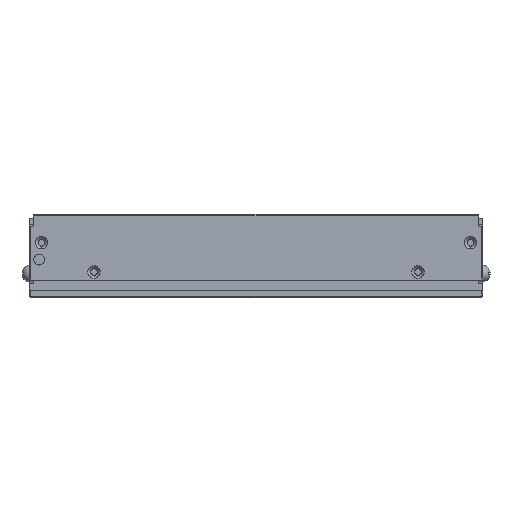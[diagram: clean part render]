
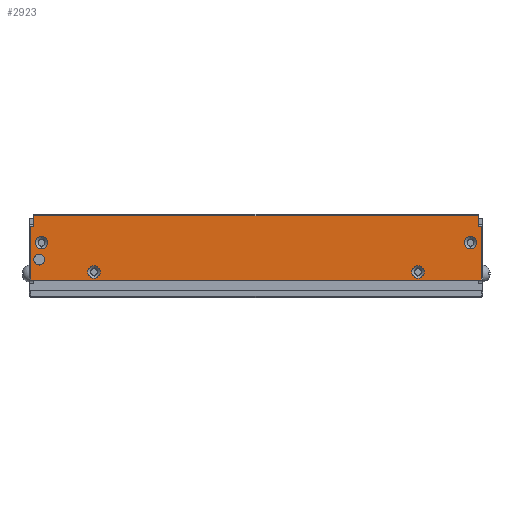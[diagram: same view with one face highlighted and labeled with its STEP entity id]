
A CAD part, top view. The second image highlights one B-rep face of the part: STEP entity #2923.
In plain terms, the highlighted planar face has unit normal (0, 0, 1) as drawn and (1, 0, 0) by its records, which use the part's own axes.
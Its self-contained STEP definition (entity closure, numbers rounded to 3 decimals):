
#320=DIRECTION('',(0.,1.,0.));
#321=VECTOR('',#320,17.499);
#322=CARTESIAN_POINT('',(9.,-4.3,-73.));
#323=LINE('',#322,#321);
#424=CARTESIAN_POINT('',(9.,2.3,70.25));
#425=DIRECTION('',(1.,0.,0.));
#426=DIRECTION('',(0.,0.,-1.));
#427=AXIS2_PLACEMENT_3D('',#424,#425,#426);
#429=CARTESIAN_POINT('',(9.,2.3,70.25));
#430=DIRECTION('',(1.,0.,0.));
#431=DIRECTION('',(0.,0.,1.));
#432=AXIS2_PLACEMENT_3D('',#429,#430,#431);
#434=CARTESIAN_POINT('',(9.,-1.7,52.5));
#435=DIRECTION('',(1.,0.,0.));
#436=DIRECTION('',(0.,1.,0.));
#437=AXIS2_PLACEMENT_3D('',#434,#435,#436);
#439=CARTESIAN_POINT('',(9.,-1.7,52.5));
#440=DIRECTION('',(1.,0.,0.));
#441=DIRECTION('',(0.,-1.,0.));
#442=AXIS2_PLACEMENT_3D('',#439,#440,#441);
#444=CARTESIAN_POINT('',(9.,7.8,69.5));
#445=DIRECTION('',(1.,0.,0.));
#446=DIRECTION('',(0.,1.,0.));
#447=AXIS2_PLACEMENT_3D('',#444,#445,#446);
#449=CARTESIAN_POINT('',(9.,7.8,69.5));
#450=DIRECTION('',(1.,0.,0.));
#451=DIRECTION('',(0.,-1.,0.));
#452=AXIS2_PLACEMENT_3D('',#449,#450,#451);
#454=CARTESIAN_POINT('',(9.,-1.7,-52.5));
#455=DIRECTION('',(1.,0.,0.));
#456=DIRECTION('',(0.,-1.,0.));
#457=AXIS2_PLACEMENT_3D('',#454,#455,#456);
#459=CARTESIAN_POINT('',(9.,-1.7,-52.5));
#460=DIRECTION('',(1.,0.,0.));
#461=DIRECTION('',(0.,1.,0.));
#462=AXIS2_PLACEMENT_3D('',#459,#460,#461);
#464=CARTESIAN_POINT('',(9.,7.8,-69.5));
#465=DIRECTION('',(1.,0.,0.));
#466=DIRECTION('',(0.,-1.,0.));
#467=AXIS2_PLACEMENT_3D('',#464,#465,#466);
#469=CARTESIAN_POINT('',(9.,7.8,-69.5));
#470=DIRECTION('',(1.,0.,0.));
#471=DIRECTION('',(0.,1.,0.));
#472=AXIS2_PLACEMENT_3D('',#469,#470,#471);
#474=DIRECTION('',(0.,-1.,0.));
#475=VECTOR('',#474,3.301);
#476=CARTESIAN_POINT('',(9.,16.5,-72.));
#477=LINE('',#476,#475);
#478=DIRECTION('',(0.,0.,-1.));
#479=VECTOR('',#478,1.);
#480=CARTESIAN_POINT('',(9.,13.199,-72.));
#481=LINE('',#480,#479);
#482=DIRECTION('',(0.,0.,1.));
#483=VECTOR('',#482,146.);
#484=CARTESIAN_POINT('',(9.,-4.3,-73.));
#485=LINE('',#484,#483);
#486=DIRECTION('',(0.,0.,-1.));
#487=VECTOR('',#486,144.);
#488=CARTESIAN_POINT('',(9.,16.5,72.));
#489=LINE('',#488,#487);
#1700=DIRECTION('',(0.,0.,1.));
#1701=VECTOR('',#1700,1.);
#1702=CARTESIAN_POINT('',(9.,13.197,72.));
#1703=LINE('',#1702,#1701);
#1724=DIRECTION('',(0.,-1.,0.));
#1725=VECTOR('',#1724,3.303);
#1726=CARTESIAN_POINT('',(9.,16.5,72.));
#1727=LINE('',#1726,#1725);
#1732=DIRECTION('',(0.,-1.,0.));
#1733=VECTOR('',#1732,17.497);
#1734=CARTESIAN_POINT('',(9.,13.197,73.));
#1735=LINE('',#1734,#1733);
#2020=CARTESIAN_POINT('',(9.,13.197,73.));
#2022=VERTEX_POINT('',#2020);
#2023=CARTESIAN_POINT('',(9.,-4.3,73.));
#2024=VERTEX_POINT('',#2023);
#2183=CARTESIAN_POINT('',(9.,13.199,-73.));
#2185=VERTEX_POINT('',#2183);
#2187=CARTESIAN_POINT('',(9.,-4.3,-73.));
#2188=VERTEX_POINT('',#2187);
#2261=CARTESIAN_POINT('',(9.,16.5,-72.));
#2263=VERTEX_POINT('',#2261);
#2275=CARTESIAN_POINT('',(9.,16.5,72.));
#2276=VERTEX_POINT('',#2275);
#2277=CARTESIAN_POINT('',(9.,5.8,-69.5));
#2278=CARTESIAN_POINT('',(9.,9.8,-69.5));
#2279=VERTEX_POINT('',#2277);
#2280=VERTEX_POINT('',#2278);
#2281=CARTESIAN_POINT('',(9.,-3.7,-52.5));
#2282=CARTESIAN_POINT('',(9.,0.3,-52.5));
#2283=VERTEX_POINT('',#2281);
#2284=VERTEX_POINT('',#2282);
#2285=CARTESIAN_POINT('',(9.,9.8,69.5));
#2286=CARTESIAN_POINT('',(9.,5.8,69.5));
#2287=VERTEX_POINT('',#2285);
#2288=VERTEX_POINT('',#2286);
#2289=CARTESIAN_POINT('',(9.,0.3,52.5));
#2290=CARTESIAN_POINT('',(9.,-3.7,52.5));
#2291=VERTEX_POINT('',#2289);
#2292=VERTEX_POINT('',#2290);
#2293=CARTESIAN_POINT('',(9.,2.3,72.));
#2295=VERTEX_POINT('',#2293);
#2299=CARTESIAN_POINT('',(9.,2.3,68.5));
#2300=VERTEX_POINT('',#2299);
#2349=CARTESIAN_POINT('',(9.,13.197,72.));
#2350=VERTEX_POINT('',#2349);
#2351=CARTESIAN_POINT('',(9.,13.199,-72.));
#2352=VERTEX_POINT('',#2351);
#2874=CARTESIAN_POINT('',(9.,-4.3,72.));
#2875=DIRECTION('',(1.,0.,0.));
#2876=DIRECTION('',(0.,1.,0.));
#2877=AXIS2_PLACEMENT_3D('',#2874,#2875,#2876);
#2878=PLANE('',#2877);
#2879=ORIENTED_EDGE('',*,*,#2711,.T.);
#2880=ORIENTED_EDGE('',*,*,#2698,.T.);
#2881=ORIENTED_EDGE('',*,*,#2681,.F.);
#2883=ORIENTED_EDGE('',*,*,#2882,.T.);
#2885=ORIENTED_EDGE('',*,*,#2884,.F.);
#2887=ORIENTED_EDGE('',*,*,#2886,.F.);
#2889=ORIENTED_EDGE('',*,*,#2888,.F.);
#2890=ORIENTED_EDGE('',*,*,#2866,.T.);
#2891=EDGE_LOOP('',(#2879,#2880,#2881,#2883,#2885,#2887,#2889,#2890));
#2892=FACE_OUTER_BOUND('',#2891,.F.);
#2894=ORIENTED_EDGE('',*,*,#2893,.T.);
#2896=ORIENTED_EDGE('',*,*,#2895,.T.);
#2897=EDGE_LOOP('',(#2894,#2896));
#2898=FACE_BOUND('',#2897,.F.);
#2900=ORIENTED_EDGE('',*,*,#2899,.T.);
#2902=ORIENTED_EDGE('',*,*,#2901,.T.);
#2903=EDGE_LOOP('',(#2900,#2902));
#2904=FACE_BOUND('',#2903,.F.);
#2906=ORIENTED_EDGE('',*,*,#2905,.T.);
#2908=ORIENTED_EDGE('',*,*,#2907,.T.);
#2909=EDGE_LOOP('',(#2906,#2908));
#2910=FACE_BOUND('',#2909,.F.);
#2912=ORIENTED_EDGE('',*,*,#2911,.T.);
#2914=ORIENTED_EDGE('',*,*,#2913,.T.);
#2915=EDGE_LOOP('',(#2912,#2914));
#2916=FACE_BOUND('',#2915,.F.);
#2918=ORIENTED_EDGE('',*,*,#2917,.T.);
#2920=ORIENTED_EDGE('',*,*,#2919,.T.);
#2921=EDGE_LOOP('',(#2918,#2920));
#2922=FACE_BOUND('',#2921,.F.);
#428=CIRCLE('',#427,1.75);
#433=CIRCLE('',#432,1.75);
#438=CIRCLE('',#437,2.);
#443=CIRCLE('',#442,2.);
#448=CIRCLE('',#447,2.);
#453=CIRCLE('',#452,2.);
#458=CIRCLE('',#457,2.);
#463=CIRCLE('',#462,2.);
#468=CIRCLE('',#467,2.);
#473=CIRCLE('',#472,2.);
#2681=EDGE_CURVE('',#2188,#2185,#323,.T.);
#2698=EDGE_CURVE('',#2352,#2185,#481,.T.);
#2711=EDGE_CURVE('',#2263,#2352,#477,.T.);
#2866=EDGE_CURVE('',#2276,#2263,#489,.T.);
#2882=EDGE_CURVE('',#2188,#2024,#485,.T.);
#2884=EDGE_CURVE('',#2022,#2024,#1735,.T.);
#2886=EDGE_CURVE('',#2350,#2022,#1703,.T.);
#2888=EDGE_CURVE('',#2276,#2350,#1727,.T.);
#2893=EDGE_CURVE('',#2291,#2292,#438,.T.);
#2895=EDGE_CURVE('',#2292,#2291,#443,.T.);
#2899=EDGE_CURVE('',#2287,#2288,#448,.T.);
#2901=EDGE_CURVE('',#2288,#2287,#453,.T.);
#2905=EDGE_CURVE('',#2283,#2284,#458,.T.);
#2907=EDGE_CURVE('',#2284,#2283,#463,.T.);
#2911=EDGE_CURVE('',#2279,#2280,#468,.T.);
#2913=EDGE_CURVE('',#2280,#2279,#473,.T.);
#2917=EDGE_CURVE('',#2300,#2295,#428,.T.);
#2919=EDGE_CURVE('',#2295,#2300,#433,.T.);
#2923=ADVANCED_FACE('',(#2892,#2898,#2904,#2910,#2916,#2922),#2878,.T.);
